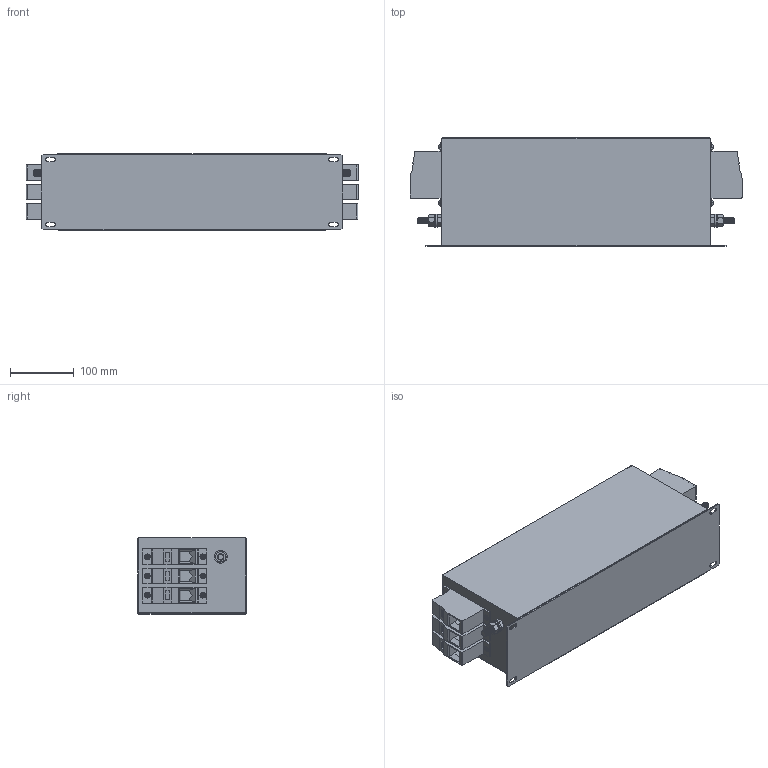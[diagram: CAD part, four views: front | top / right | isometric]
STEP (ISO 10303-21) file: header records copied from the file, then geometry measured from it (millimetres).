
FILE_DESCRIPTION (( 'STEP AP203' ), '1' );
FILE_NAME ('177290 NF-KC-DAR-180.STEP', '2020-01-28T12:22:26', ( '' ), ( '' ), 'SwSTEP 2.0', 'SolidWorks 2017', '' );
FILE_SCHEMA (( 'CONFIG_CONTROL_DESIGN' ));
Length unit declared in the file: millimetre
Products named in the file (8): HDFK-95; hex screw_am_B18.6.7M - M10 x 1.5 x 30 Indented HHMS --30S; 177290 NF-KC-DAR-180; hex nut style 1_am_B18.2.4.1M - Hex nut, Style 1,  M10 x 1.5, with 16mm WAF --D-N; 5mm Rivet short; flat washer narrow_am_B18.22M - Plain washer, 10 mm, narrow; M10x30 Earth post
Assembly tree (25 placements, depth 3):
  177290 NF-KC-DAR-180
    177290 NF-KC-DAR-180
    HDFK-95  x6
    M10x30 Earth post  x2
      flat washer narrow_am_B18.22M - Plain washer, 10 mm, narrow
      hex nut style 1_am_B18.2.4.1M - Hex nut, Style 1,  M10 x 1.5, with 16mm WAF --D-N
      hex screw_am_B18.6.7M - M10 x 1.5 x 30 Indented HHMS --30S
    5mm Rivet short  x12
Bounding box: 520 x 170 x 120 mm (x, y, z)
Volume: 9008726.4 mm3; surface area: 459510.9 mm2
Topology: 27 solids, 27 shells, 1029 faces, 2517 edges, 1598 vertices
Faces by surface type: plane 520, cylinder 259, cone 224, torus 24, sphere 2
Entity records: 11215 total; most frequent: CARTESIAN_POINT 1893, DIRECTION 1783, ORIENTED_EDGE 1614, EDGE_CURVE 807, AXIS2_PLACEMENT_3D 670, VERTEX_POINT 508, LINE 443, VECTOR 443
